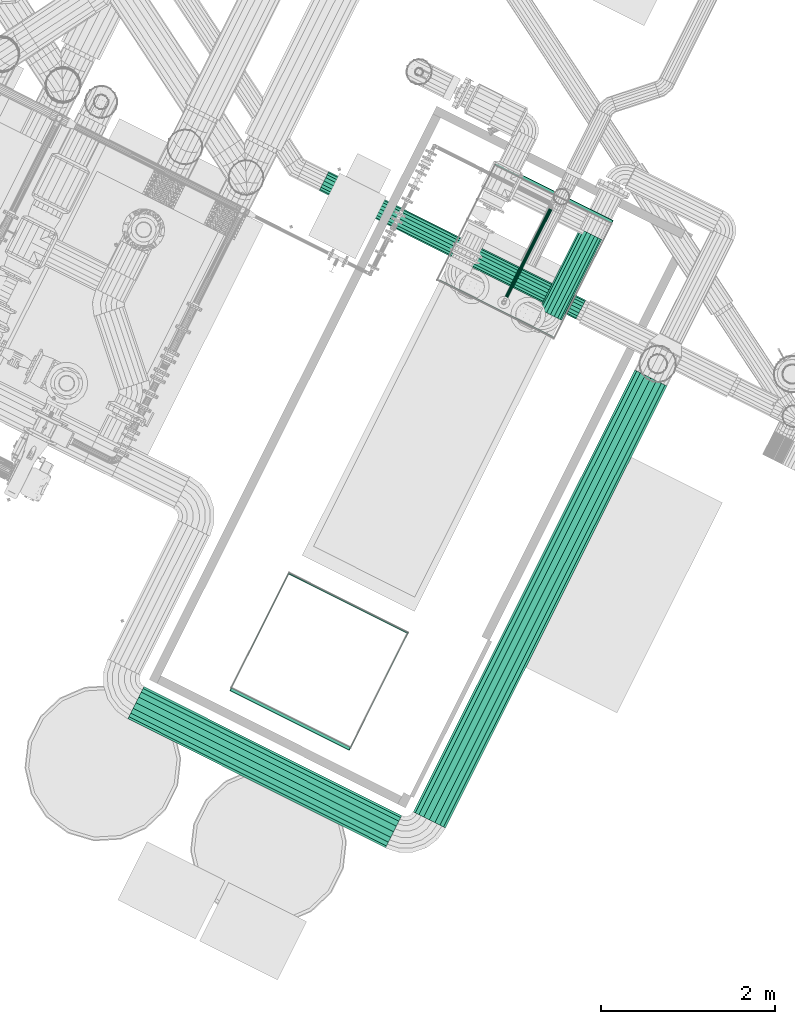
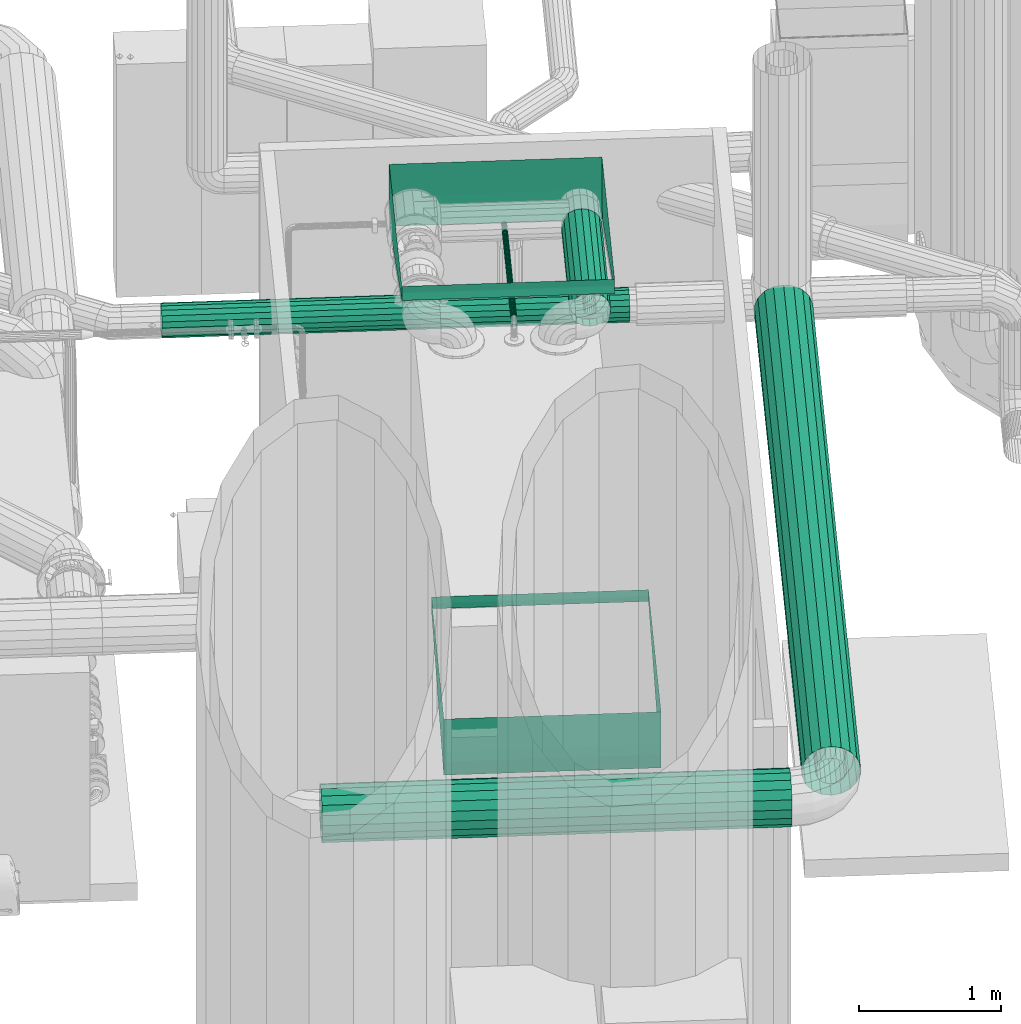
# One storey, part 7 of 206: 5 flow segments, 3 flow fittings.
"""IFC2X3 building model written with IfcOpenShell, lengths in metres."""

from ifc_helpers import new_model, si_unit, derived_unit, direction, frame, origin, place, context, subcontext, project, spatial, face_set, surface_model, source, transform, mapped, material, type_object, type_shapes, element, save


model = new_model("IFC2X3")

# Units and contexts
model_context = context("Model", 3, precision=5.2338327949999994e-05, world=origin(), true_north=direction((0.0, 1.0)))
body_context = subcontext(model_context, "Body", "Model", "MODEL_VIEW")
ifc_project = project(units=[si_unit("LENGTHUNIT", "METRE"), si_unit("AREAUNIT", "SQUARE_METRE"), si_unit("VOLUMEUNIT", "CUBIC_METRE"), si_unit("MASSUNIT", "GRAM", prefix="KILO"), si_unit("PLANEANGLEUNIT", "RADIAN"), derived_unit("THERMALTRANSMITTANCEUNIT", [(si_unit("MASSUNIT", "GRAM", prefix="KILO"), 1), (si_unit("THERMODYNAMICTEMPERATUREUNIT", "KELVIN"), -1), (si_unit("TIMEUNIT", "SECOND"), -3)])], contexts=[model_context])

# Site, building, storey
site_placement = place(None, frame((0.0, 0.0, 0.0), z_axis=(0.0, 0.0, 1.0), x_axis=(0.8939966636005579, -0.4480736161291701, 0.0)))
site = spatial("IfcSite", under=ifc_project, at=site_placement, Name="Default", CompositionType="ELEMENT")
building_placement = place(site_placement, origin())
building = spatial("IfcBuilding", under=site, at=building_placement, CompositionType="ELEMENT")
storey_placement = place(building_placement, origin())
storey = spatial("IfcBuildingStorey", under=building, at=storey_placement, Name="Erdgeschoss", CompositionType="ELEMENT", Elevation=0.0)

# Flow fittings
ifc_material_1 = material(Name="IfcSurfaceStyle #271571")
distribution_element_type_1 = type_object("IfcDistributionElementType", Name="Bogen asymmetrisch 272668:Bogen asymmetrisch 272668", material=ifc_material_1)
shared_shape_1 = source(origin(), body_context, "Body", "SurfaceModel", [
    surface_model("IfcFaceBasedSurfaceModel", [(29.800000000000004, 8.373869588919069, 2.717682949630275), (29.800000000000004, 8.373869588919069, 2.667682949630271), (31.300000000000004, 8.373869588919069, 2.667682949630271), (31.300000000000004, 8.373869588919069, 2.7176829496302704), (31.300000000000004, 8.372165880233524, 2.6547419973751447), (31.300000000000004, 8.373441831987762, 2.661156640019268), (29.800000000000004, 8.373441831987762, 2.661156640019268), (29.800000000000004, 8.372165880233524, 2.6547419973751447), (29.800000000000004, 8.359224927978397, 2.6064457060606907), (31.300000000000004, 8.3592249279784, 2.6064457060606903), (29.800000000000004, 9.837091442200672, 2.2104525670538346), (29.800000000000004, 9.850032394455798, 2.2587488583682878), (31.300000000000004, 9.850032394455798, 2.2587488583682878), (31.300000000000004, 9.837091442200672, 2.210452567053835), (31.300000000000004, 9.87386958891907, 2.439810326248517), (31.300000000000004, 9.867884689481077, 2.3484984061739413), (29.800000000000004, 9.867884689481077, 2.3484984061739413), (29.800000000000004, 9.87386958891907, 2.439810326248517), (29.800000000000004, 9.87386958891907, 2.71768294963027), (31.300000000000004, 9.87386958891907, 2.7176829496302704)], [face_set([[[0, 1, 2, 3]], [[4, 5, 6, 7]], [[5, 2, 1, 6]], [[7, 8, 9, 4]], [[10, 11, 12, 13]], [[14, 15, 16, 17]], [[15, 12, 11, 16]], [[17, 18, 19, 14]], [[19, 3, 2]], [[19, 2, 5]], [[19, 5, 4]], [[19, 4, 9]], [[19, 9, 13]], [[19, 13, 12]], [[19, 12, 15]], [[19, 15, 14]], [[1, 0, 18]], [[6, 1, 18]], [[7, 6, 18]], [[8, 7, 18]], [[10, 8, 18]], [[11, 10, 18]], [[16, 11, 18]], [[17, 16, 18]]])]),
])
type_shapes(distribution_element_type_1, [shared_shape_1])
flow_fitting_1_placement = place(storey_placement, origin())
element("IfcFlowFitting", 1, at=flow_fitting_1_placement, inside=storey, type_object=distribution_element_type_1, material=ifc_material_1, Name="Bogen asymmetrisch", ObjectType="Bogen asymmetrisch", context=body_context, shape_type="MappedRepresentation", body=[
    mapped(shared_shape_1, transform((0.0, 0.0, 0.0), scale=1.0)),
])
ifc_material_2 = material(Name="IfcSurfaceStyle #271263")
distribution_element_type_2 = type_object("IfcDistributionElementType", Name="Bogen asymmetrisch 273239:Bogen asymmetrisch 273239", material=ifc_material_2)
shared_shape_2 = source(origin(), body_context, "Body", "SurfaceModel", [
    surface_model("IfcFaceBasedSurfaceModel", [(31.315, 3.105706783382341, 2.2428476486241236), (31.315, 3.0878544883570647, 2.3325971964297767), (29.785000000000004, 3.0878544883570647, 2.3325971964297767), (29.785000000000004, 3.105706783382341, 2.2428476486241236), (31.315, 3.0818695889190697, 2.423909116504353), (29.785000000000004, 3.0818695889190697, 2.423909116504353), (29.785000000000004, 3.1186477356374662, 2.19455135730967), (31.315, 3.1186477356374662, 2.19455135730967), (29.785000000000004, 4.596514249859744, 2.5905444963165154), (29.785000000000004, 4.5835732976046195, 2.6388407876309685), (31.31500000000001, 4.5835732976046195, 2.6388407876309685), (31.315, 4.5965142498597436, 2.590544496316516), (31.31500000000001, 4.58186958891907, 2.6517817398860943), (31.31500000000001, 4.582297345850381, 2.6452554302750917), (29.785000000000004, 4.582297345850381, 2.6452554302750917), (29.785000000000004, 4.58186958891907, 2.6517817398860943), (29.785000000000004, 4.581869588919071, 2.7017817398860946), (31.31500000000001, 4.581869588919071, 2.701781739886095), (29.785000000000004, 3.0818695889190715, 2.701781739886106), (31.31500000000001, 3.0818695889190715, 2.701781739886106)], [face_set([[[0, 1, 2, 3]], [[1, 4, 5, 2]], [[3, 6, 7, 0]], [[8, 9, 10, 11]], [[12, 13, 14, 15]], [[13, 10, 9, 14]], [[15, 16, 17, 12]], [[18, 5, 4, 19]], [[4, 1, 0]], [[4, 0, 7]], [[4, 7, 11]], [[4, 11, 10]], [[4, 10, 13]], [[4, 13, 12]], [[4, 12, 17]], [[4, 17, 19]], [[3, 2, 5]], [[6, 3, 5]], [[8, 6, 5]], [[9, 8, 5]], [[14, 9, 5]], [[15, 14, 5]], [[16, 15, 5]], [[18, 16, 5]]])]),
])
type_shapes(distribution_element_type_2, [shared_shape_2])
flow_fitting_2_placement = place(storey_placement, origin())
element("IfcFlowFitting", 2, at=flow_fitting_2_placement, inside=storey, type_object=distribution_element_type_2, material=ifc_material_2, Name="Bogen asymmetrisch", ObjectType="Bogen asymmetrisch", context=body_context, shape_type="MappedRepresentation", body=[
    mapped(shared_shape_2, transform((0.0, 0.0, 0.0), scale=1.0)),
])

# Flow segments
ifc_material_3 = material(Name="IfcSurfaceStyle #251447")
distribution_element_type_3 = type_object("IfcDistributionElementType", Name="Wickelfalzrohr 283724:Wickelfalzrohr 283724", material=ifc_material_3)
shared_shape_3 = source(origin(), body_context, "Body", "SurfaceModel", [
    surface_model("IfcFaceBasedSurfaceModel", [(31.425259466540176, 8.794603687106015, 2.324999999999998), (31.425259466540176, 8.837356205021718, 2.317461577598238), (28.128931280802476, 8.837356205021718, 2.317461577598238), (28.128931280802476, 8.79460368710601, 2.3249999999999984), (31.425259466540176, 8.874952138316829, 2.2957555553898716), (28.128931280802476, 8.874952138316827, 2.2957555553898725), (31.425259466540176, 8.902856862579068, 2.2624999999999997), (28.128931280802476, 8.902856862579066, 2.262500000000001), (31.425259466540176, 8.91770465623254, 2.221706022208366), (28.128931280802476, 8.917704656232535, 2.2217060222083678), (31.425259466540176, 8.917704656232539, 2.1782939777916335), (28.128931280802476, 8.917704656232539, 2.1782939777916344), (31.425259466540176, 8.902856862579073, 2.137499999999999), (28.128931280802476, 8.902856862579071, 2.1375000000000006), (31.425259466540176, 8.874952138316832, 2.1042444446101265), (28.128931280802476, 8.874952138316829, 2.104244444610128), (31.425259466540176, 8.837356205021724, 2.0825384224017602), (28.128931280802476, 8.837356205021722, 2.082538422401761), (31.425259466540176, 8.794603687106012, 2.0749999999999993), (28.128931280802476, 8.794603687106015, 2.0749999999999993), (31.425259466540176, 8.751851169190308, 2.0825384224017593), (28.128931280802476, 8.751851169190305, 2.08253842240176), (31.425259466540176, 8.714255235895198, 2.104244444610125), (28.128931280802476, 8.714255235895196, 2.104244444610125), (31.425259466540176, 8.686350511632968, 2.137499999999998), (28.128931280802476, 8.686350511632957, 2.1374999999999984), (31.425259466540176, 8.671502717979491, 2.17829397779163), (28.128931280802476, 8.671502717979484, 2.1782939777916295), (31.425259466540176, 8.671502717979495, 2.2217060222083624), (28.128931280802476, 8.671502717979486, 2.2217060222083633), (31.425259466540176, 8.686350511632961, 2.262499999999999), (28.128931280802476, 8.686350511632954, 2.262499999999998), (31.425259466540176, 8.714255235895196, 2.29575555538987), (28.128931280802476, 8.714255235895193, 2.2957555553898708), (31.425259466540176, 8.751851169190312, 2.3174615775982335), (28.128931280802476, 8.751851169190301, 2.3174615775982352)], [face_set([[[0, 1, 2, 3]], [[1, 4, 5, 2]], [[4, 6, 7, 5]], [[6, 8, 9, 7]], [[8, 10, 11, 9]], [[10, 12, 13, 11]], [[12, 14, 15, 13]], [[14, 16, 17, 15]], [[16, 18, 19, 17]], [[18, 20, 21, 19]], [[20, 22, 23, 21]], [[22, 24, 25, 23]], [[24, 26, 27, 25]], [[26, 28, 29, 27]], [[28, 30, 31, 29]], [[30, 32, 33, 31]], [[32, 34, 35, 33]], [[34, 0, 3, 35]]])]),
])
type_shapes(distribution_element_type_3, [shared_shape_3])
flow_segment_1_placement = place(storey_placement, origin())
element("IfcFlowSegment", 3, at=flow_segment_1_placement, inside=storey, type_object=distribution_element_type_3, material=ifc_material_3, Name="Wickelfalzrohr", ObjectType="Wickelfalzrohr", context=body_context, shape_type="MappedRepresentation", body=[
    mapped(shared_shape_3, transform((0.0, 0.0, 0.0), scale=1.0)),
])
ifc_material_4 = material(Name="IfcSurfaceStyle #9317")
distribution_element_type_4 = type_object("IfcDistributionElementType", Name="Stahlrohr nach DIN 2448 331948:Stahlrohr nach DIN 2448 331948", material=ifc_material_4)
shared_shape_4 = source(origin(), body_context, "Body", "SurfaceModel", [
    surface_model("IfcFaceBasedSurfaceModel", [(31.13987201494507, 8.587570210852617, 2.269549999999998), (31.124669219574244, 8.587570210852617, 2.2722306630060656), (31.124669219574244, 9.62141948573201, 2.2722306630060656), (31.139872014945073, 9.62141948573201, 2.269549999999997), (31.111300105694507, 8.587570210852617, 2.2799493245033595), (31.111300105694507, 9.62141948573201, 2.2799493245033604), (31.101377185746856, 8.587570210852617, 2.291774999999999), (31.101377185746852, 9.62141948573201, 2.291775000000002), (31.096097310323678, 8.587570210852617, 2.306281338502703), (31.096097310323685, 9.62141948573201, 2.306281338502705), (31.096097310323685, 8.587570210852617, 2.321718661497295), (31.096097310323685, 9.62141948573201, 2.3217186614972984), (31.101377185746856, 8.587570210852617, 2.3362250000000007), (31.101377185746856, 9.62141948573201, 2.3362250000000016), (31.111300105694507, 8.587570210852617, 2.3480506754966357), (31.111300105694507, 9.62141948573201, 2.348050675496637), (31.124669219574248, 8.587570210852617, 2.3557693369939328), (31.12466921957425, 9.62141948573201, 2.3557693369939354), (31.139872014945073, 8.587570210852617, 2.358449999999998), (31.139872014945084, 9.62141948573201, 2.3584499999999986), (31.1550748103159, 8.587570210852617, 2.3557693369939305), (31.155074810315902, 9.62141948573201, 2.355769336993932), (31.16844392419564, 8.587570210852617, 2.3480506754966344), (31.168443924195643, 9.62141948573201, 2.348050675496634), (31.17836684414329, 8.587570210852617, 2.3362249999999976), (31.178366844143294, 9.62141948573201, 2.336224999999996), (31.183646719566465, 8.587570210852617, 2.321718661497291), (31.183646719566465, 9.62141948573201, 2.32171866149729), (31.183646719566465, 8.587570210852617, 2.3062813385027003), (31.183646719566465, 9.62141948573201, 2.3062813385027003), (31.17836684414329, 8.587570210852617, 2.291774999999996), (31.17836684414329, 9.62141948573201, 2.291774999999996), (31.16844392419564, 8.587570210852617, 2.2799493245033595), (31.168443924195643, 9.62141948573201, 2.279949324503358), (31.155074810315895, 8.587570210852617, 2.2722306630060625), (31.155074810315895, 9.62141948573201, 2.2722306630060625), (31.13987201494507, 8.587570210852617, 2.1695499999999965), (31.09046720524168, 8.587570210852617, 2.1782614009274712), (31.090467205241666, 9.62141948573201, 2.178261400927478), (31.13987201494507, 9.62141948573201, 2.1695500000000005), (31.04702134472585, 8.587570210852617, 2.2033448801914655), (31.047021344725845, 9.62141948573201, 2.20334488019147), (31.01477464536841, 8.587570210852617, 2.2417750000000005), (31.01477464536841, 9.62141948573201, 2.2417750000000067), (30.997616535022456, 8.587570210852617, 2.2889165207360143), (30.99761653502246, 9.62141948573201, 2.2889165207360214), (30.99761653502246, 8.587570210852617, 2.3390834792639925), (30.997616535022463, 9.62141948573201, 2.3390834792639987), (31.014774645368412, 8.587570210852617, 2.386225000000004), (31.014774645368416, 9.62141948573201, 2.3862250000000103), (31.047021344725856, 8.587570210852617, 2.4246551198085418), (31.04702134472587, 9.62141948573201, 2.4246551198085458), (31.090467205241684, 8.587570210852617, 2.449738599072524), (31.090467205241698, 9.62141948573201, 2.449738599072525), (31.139872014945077, 8.587570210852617, 2.458449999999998), (31.13987201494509, 9.62141948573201, 2.4584499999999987), (31.189276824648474, 8.587570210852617, 2.4497385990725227), (31.18927682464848, 9.62141948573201, 2.44973859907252), (31.2327226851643, 8.587570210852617, 2.424655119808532), (31.23272268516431, 9.62141948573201, 2.4246551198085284), (31.264969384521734, 8.587570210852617, 2.3862249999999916), (31.264969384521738, 9.62141948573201, 2.3862249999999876), (31.282127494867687, 8.587570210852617, 2.339083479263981), (31.282127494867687, 9.62141948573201, 2.3390834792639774), (31.282127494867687, 8.587570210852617, 2.2889165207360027), (31.282127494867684, 9.62141948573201, 2.2889165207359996), (31.26496938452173, 8.587570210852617, 2.2417749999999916), (31.26496938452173, 9.62141948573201, 2.24177499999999), (31.23272268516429, 8.587570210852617, 2.2033448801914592), (31.23272268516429, 9.62141948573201, 2.2033448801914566), (31.189276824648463, 8.587570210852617, 2.178261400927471), (31.189276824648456, 9.62141948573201, 2.178261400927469)], [face_set([[[0, 1, 2, 3]], [[1, 4, 5, 2]], [[4, 6, 7, 5]], [[6, 8, 9, 7]], [[8, 10, 11, 9]], [[10, 12, 13, 11]], [[12, 14, 15, 13]], [[14, 16, 17, 15]], [[16, 18, 19, 17]], [[18, 20, 21, 19]], [[20, 22, 23, 21]], [[22, 24, 25, 23]], [[24, 26, 27, 25]], [[26, 28, 29, 27]], [[28, 30, 31, 29]], [[30, 32, 33, 31]], [[32, 34, 35, 33]], [[34, 0, 3, 35]], [[36, 37, 38, 39]], [[37, 40, 41, 38]], [[40, 42, 43, 41]], [[42, 44, 45, 43]], [[44, 46, 47, 45]], [[46, 48, 49, 47]], [[48, 50, 51, 49]], [[50, 52, 53, 51]], [[52, 54, 55, 53]], [[54, 56, 57, 55]], [[56, 58, 59, 57]], [[58, 60, 61, 59]], [[60, 62, 63, 61]], [[62, 64, 65, 63]], [[64, 66, 67, 65]], [[66, 68, 69, 67]], [[68, 70, 71, 69]], [[70, 36, 39, 71]]])]),
])
type_shapes(distribution_element_type_4, [shared_shape_4])
flow_segment_2_placement = place(storey_placement, origin())
element("IfcFlowSegment", 4, at=flow_segment_2_placement, inside=storey, type_object=distribution_element_type_4, material=ifc_material_4, Name="Stahlrohr nach DIN 2448", ObjectType="Stahlrohr nach DIN 2448", context=body_context, shape_type="MappedRepresentation", body=[
    mapped(shared_shape_4, transform((0.0, 0.0, 0.0), scale=1.0)),
])
distribution_element_type_5 = type_object("IfcDistributionElementType", Name="Stahlrohr nach DIN 2448 342650:Stahlrohr nach DIN 2448 342650", material=ifc_material_4)
shared_shape_5 = source(origin(), body_context, "Body", "SurfaceModel", [
    surface_model("IfcFaceBasedSurfaceModel", [(28.881548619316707, 2.4768683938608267, 2.463549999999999), (28.881548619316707, 2.4394000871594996, 2.4569433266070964), (32.19039487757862, 2.439400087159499, 2.4569433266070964), (32.19039487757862, 2.4768683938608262, 2.463549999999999), (28.881548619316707, 2.4064510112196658, 2.437920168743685), (32.19039487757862, 2.406451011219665, 2.4379201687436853), (28.881548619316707, 2.3819953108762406, 2.408775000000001), (32.19039487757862, 2.3819953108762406, 2.408775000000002), (28.881548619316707, 2.3689827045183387, 2.373023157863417), (32.19039487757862, 2.3689827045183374, 2.373023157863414), (28.881548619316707, 2.3689827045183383, 2.334976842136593), (32.19039487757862, 2.3689827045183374, 2.3349768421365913), (28.881548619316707, 2.3819953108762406, 2.299225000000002), (32.19039487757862, 2.3819953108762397, 2.299225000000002), (28.881548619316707, 2.406451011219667, 2.2700798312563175), (32.19039487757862, 2.4064510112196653, 2.2700798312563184), (28.881548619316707, 2.4394000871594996, 2.251056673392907), (32.19039487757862, 2.4394000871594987, 2.251056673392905), (28.881548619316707, 2.4768683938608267, 2.244449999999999), (32.19039487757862, 2.476868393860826, 2.244449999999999), (28.881548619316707, 2.5143367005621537, 2.2510566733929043), (32.19039487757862, 2.5143367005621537, 2.2510566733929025), (28.881548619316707, 2.547285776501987, 2.270079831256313), (32.19039487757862, 2.5472857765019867, 2.270079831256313), (28.881548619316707, 2.5717414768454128, 2.2992249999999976), (32.19039487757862, 2.5717414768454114, 2.2992249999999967), (28.881548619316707, 2.5847540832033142, 2.3349768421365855), (32.19039487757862, 2.5847540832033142, 2.334976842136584), (28.881548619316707, 2.5847540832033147, 2.373023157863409), (32.19039487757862, 2.5847540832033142, 2.3730231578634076), (28.881548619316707, 2.5717414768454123, 2.408774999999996), (32.19039487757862, 2.5717414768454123, 2.408774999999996), (28.881548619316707, 2.547285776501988, 2.437920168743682), (32.19039487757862, 2.5472857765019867, 2.4379201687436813), (28.881548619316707, 2.5143367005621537, 2.4569433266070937), (32.19039487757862, 2.5143367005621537, 2.4569433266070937), (28.881548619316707, 2.476868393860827, 2.563549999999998), (28.881548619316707, 2.405198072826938, 2.5509125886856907), (32.19039487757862, 2.4051980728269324, 2.550912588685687), (32.19039487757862, 2.476868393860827, 2.563549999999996), (28.881548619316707, 2.342172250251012, 2.514524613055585), (32.19039487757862, 2.342172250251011, 2.5145246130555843), (28.881548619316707, 2.2953927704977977, 2.4587750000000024), (32.19039487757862, 2.2953927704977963, 2.4587750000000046), (28.881548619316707, 2.270501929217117, 2.390387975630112), (32.19039487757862, 2.2705019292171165, 2.390387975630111), (28.881548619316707, 2.2705019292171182, 2.317612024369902), (32.19039487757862, 2.2705019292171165, 2.3176120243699), (28.881548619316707, 2.295392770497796, 2.2492250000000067), (32.19039487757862, 2.2953927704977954, 2.2492250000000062), (28.881548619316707, 2.342172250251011, 2.193475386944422), (32.19039487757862, 2.3421722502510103, 2.1934753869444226), (28.881548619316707, 2.405198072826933, 2.157087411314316), (32.19039487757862, 2.4051980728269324, 2.1570874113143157), (28.881548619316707, 2.4768683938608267, 2.144450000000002), (32.19039487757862, 2.4768683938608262, 2.1444500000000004), (28.881548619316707, 2.5485387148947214, 2.15708741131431), (32.19039487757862, 2.5485387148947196, 2.15708741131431), (28.881548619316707, 2.611564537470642, 2.193475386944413), (32.19039487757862, 2.611564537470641, 2.1934753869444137), (28.881548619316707, 2.6583440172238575, 2.2492249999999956), (32.19039487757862, 2.658344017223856, 2.2492249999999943), (28.881548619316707, 2.6832348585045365, 2.3176120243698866), (32.19039487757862, 2.683234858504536, 2.3176120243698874), (28.881548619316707, 2.6832348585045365, 2.390387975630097), (32.19039487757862, 2.6832348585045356, 2.390387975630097), (28.881548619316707, 2.6583440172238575, 2.458774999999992), (32.19039487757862, 2.658344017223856, 2.4587749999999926), (28.881548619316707, 2.6115645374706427, 2.514524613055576), (32.19039487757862, 2.611564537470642, 2.5145246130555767), (28.881548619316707, 2.548538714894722, 2.550912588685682), (32.19039487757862, 2.5485387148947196, 2.550912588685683)], [face_set([[[0, 1, 2, 3]], [[1, 4, 5, 2]], [[4, 6, 7, 5]], [[6, 8, 9, 7]], [[8, 10, 11, 9]], [[10, 12, 13, 11]], [[12, 14, 15, 13]], [[14, 16, 17, 15]], [[16, 18, 19, 17]], [[18, 20, 21, 19]], [[20, 22, 23, 21]], [[22, 24, 25, 23]], [[24, 26, 27, 25]], [[26, 28, 29, 27]], [[28, 30, 31, 29]], [[30, 32, 33, 31]], [[32, 34, 35, 33]], [[34, 0, 3, 35]], [[36, 37, 38, 39]], [[37, 40, 41, 38]], [[40, 42, 43, 41]], [[42, 44, 45, 43]], [[44, 46, 47, 45]], [[46, 48, 49, 47]], [[48, 50, 51, 49]], [[50, 52, 53, 51]], [[52, 54, 55, 53]], [[54, 56, 57, 55]], [[56, 58, 59, 57]], [[58, 60, 61, 59]], [[60, 62, 63, 61]], [[62, 64, 65, 63]], [[64, 66, 67, 65]], [[66, 68, 69, 67]], [[68, 70, 71, 69]], [[70, 36, 39, 71]]])]),
])
type_shapes(distribution_element_type_5, [shared_shape_5])
flow_segment_3_placement = place(storey_placement, origin())
element("IfcFlowSegment", 5, at=flow_segment_3_placement, inside=storey, type_object=distribution_element_type_5, material=ifc_material_4, Name="Stahlrohr nach DIN 2448", ObjectType="Stahlrohr nach DIN 2448", context=body_context, shape_type="MappedRepresentation", body=[
    mapped(shared_shape_5, transform((0.0, 0.0, 0.0), scale=1.0)),
])
distribution_element_type_6 = type_object("IfcDistributionElementType", Name="Stahlrohr nach DIN 2448 345345:Stahlrohr nach DIN 2448 345345", material=ifc_material_4)
shared_shape_6 = source(origin(), body_context, "Body", "SurfaceModel", [
    surface_model("IfcFaceBasedSurfaceModel", [(32.49539487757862, 2.7818683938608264, 2.4635500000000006), (32.53286318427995, 2.7818683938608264, 2.4569433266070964), (32.53286318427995, 8.455986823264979, 2.4569433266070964), (32.49539487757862, 8.455986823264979, 2.4635500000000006), (32.56581226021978, 2.7818683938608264, 2.437920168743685), (32.56581226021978, 8.455986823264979, 2.4379201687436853), (32.5902679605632, 2.7818683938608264, 2.408775), (32.590267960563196, 8.455986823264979, 2.408775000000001), (32.6032805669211, 2.7818683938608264, 2.373023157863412), (32.6032805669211, 8.455986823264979, 2.373023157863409), (32.60328056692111, 2.7818683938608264, 2.334976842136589), (32.60328056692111, 8.455986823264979, 2.334976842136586), (32.5902679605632, 2.7818683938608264, 2.2992249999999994), (32.5902679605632, 8.455986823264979, 2.2992249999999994), (32.56581226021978, 2.7818683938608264, 2.270079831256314), (32.56581226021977, 8.455986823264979, 2.2700798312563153), (32.53286318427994, 2.7818683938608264, 2.2510566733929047), (32.53286318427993, 8.455986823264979, 2.251056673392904), (32.49539487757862, 2.7818683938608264, 2.2444499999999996), (32.49539487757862, 8.455986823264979, 2.2444500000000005), (32.45792657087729, 2.7818683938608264, 2.251056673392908), (32.45792657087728, 8.455986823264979, 2.251056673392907), (32.42497749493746, 2.7818683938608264, 2.2700798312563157), (32.424977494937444, 8.455986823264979, 2.2700798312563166), (32.40052179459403, 2.7818683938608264, 2.2992250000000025), (32.40052179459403, 8.455986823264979, 2.2992250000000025), (32.38750918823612, 2.7818683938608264, 2.334976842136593), (32.38750918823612, 8.455986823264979, 2.3349768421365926), (32.38750918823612, 2.7818683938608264, 2.373023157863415), (32.38750918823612, 8.455986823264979, 2.373023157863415), (32.40052179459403, 2.7818683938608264, 2.4087750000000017), (32.40052179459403, 8.455986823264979, 2.4087750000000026), (32.42497749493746, 2.7818683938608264, 2.437920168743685), (32.424977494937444, 8.455986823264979, 2.437920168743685), (32.4579265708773, 2.7818683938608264, 2.456943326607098), (32.45792657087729, 8.455986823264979, 2.456943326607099), (32.49539487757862, 2.7818683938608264, 2.5635500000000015), (32.567065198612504, 2.7818683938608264, 2.5509125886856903), (32.567065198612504, 8.455986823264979, 2.5509125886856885), (32.49539487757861, 8.455986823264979, 2.5635500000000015), (32.630091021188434, 2.7818683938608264, 2.514524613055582), (32.63009102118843, 8.455986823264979, 2.5145246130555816), (32.67687050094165, 2.7818683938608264, 2.458774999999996), (32.67687050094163, 8.455986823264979, 2.4587749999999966), (32.701761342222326, 2.7818683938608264, 2.3903879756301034), (32.70176134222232, 8.455986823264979, 2.390387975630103), (32.701761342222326, 2.7818683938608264, 2.3176120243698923), (32.701761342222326, 8.455986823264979, 2.3176120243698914), (32.67687050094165, 2.7818683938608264, 2.2492249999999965), (32.67687050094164, 8.455986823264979, 2.2492249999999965), (32.63009102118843, 2.7818683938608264, 2.1934753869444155), (32.63009102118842, 8.455986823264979, 2.193475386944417), (32.56706519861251, 2.7818683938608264, 2.157087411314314), (32.567065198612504, 8.455986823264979, 2.1570874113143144), (32.49539487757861, 2.7818683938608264, 2.1444500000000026), (32.49539487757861, 8.455986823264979, 2.1444500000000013), (32.42372455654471, 2.7818683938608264, 2.1570874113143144), (32.42372455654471, 8.455986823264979, 2.157087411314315), (32.3606987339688, 2.7818683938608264, 2.1934753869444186), (32.360698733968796, 8.455986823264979, 2.1934753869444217), (32.31391925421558, 2.7818683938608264, 2.249225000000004), (32.31391925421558, 8.455986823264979, 2.2492250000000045), (32.28902841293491, 2.7818683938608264, 2.3176120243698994), (32.28902841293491, 8.455986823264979, 2.3176120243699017), (32.289028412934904, 2.7818683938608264, 2.390387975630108), (32.289028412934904, 8.455986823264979, 2.390387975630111), (32.31391925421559, 2.7818683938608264, 2.458775), (32.313919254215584, 8.455986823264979, 2.4587750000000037), (32.3606987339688, 2.7818683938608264, 2.5145246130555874), (32.360698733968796, 8.455986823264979, 2.514524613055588), (32.42372455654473, 2.7818683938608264, 2.5509125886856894), (32.42372455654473, 8.455986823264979, 2.5509125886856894)], [face_set([[[0, 1, 2, 3]], [[1, 4, 5, 2]], [[4, 6, 7, 5]], [[6, 8, 9, 7]], [[8, 10, 11, 9]], [[10, 12, 13, 11]], [[12, 14, 15, 13]], [[14, 16, 17, 15]], [[16, 18, 19, 17]], [[18, 20, 21, 19]], [[20, 22, 23, 21]], [[22, 24, 25, 23]], [[24, 26, 27, 25]], [[26, 28, 29, 27]], [[28, 30, 31, 29]], [[30, 32, 33, 31]], [[32, 34, 35, 33]], [[34, 0, 3, 35]], [[36, 37, 38, 39]], [[37, 40, 41, 38]], [[40, 42, 43, 41]], [[42, 44, 45, 43]], [[44, 46, 47, 45]], [[46, 48, 49, 47]], [[48, 50, 51, 49]], [[50, 52, 53, 51]], [[52, 54, 55, 53]], [[54, 56, 57, 55]], [[56, 58, 59, 57]], [[58, 60, 61, 59]], [[60, 62, 63, 61]], [[62, 64, 65, 63]], [[64, 66, 67, 65]], [[66, 68, 69, 67]], [[68, 70, 71, 69]], [[70, 36, 39, 71]]])]),
])
type_shapes(distribution_element_type_6, [shared_shape_6])
flow_segment_4_placement = place(storey_placement, origin())
element("IfcFlowSegment", 6, at=flow_segment_4_placement, inside=storey, type_object=distribution_element_type_6, material=ifc_material_4, Name="Stahlrohr nach DIN 2448", ObjectType="Stahlrohr nach DIN 2448", context=body_context, shape_type="MappedRepresentation", body=[
    mapped(shared_shape_6, transform((0.0, 0.0, 0.0), scale=1.0)),
])
ifc_material_5 = material(Name="IfcSurfaceStyle #352577")
distribution_element_type_7 = type_object("IfcDistributionElementType", Name="Stahlrohr nach DIN 2448 612334:Stahlrohr nach DIN 2448 612334", material=ifc_material_5)
shared_shape_7 = source(origin(), body_context, "Body", "SurfaceModel", [
    surface_model("IfcFaceBasedSurfaceModel", [(30.598000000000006, 9.675162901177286, 2.2928), (30.605250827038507, 9.675162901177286, 2.294078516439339), (30.605250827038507, 8.521570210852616, 2.294078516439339), (30.59800000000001, 8.521570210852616, 2.292800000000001), (30.611627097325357, 9.675162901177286, 2.2977598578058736), (30.611627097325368, 8.521570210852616, 2.2977598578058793), (30.61635973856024, 9.675162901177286, 2.3033999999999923), (30.616359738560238, 8.521570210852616, 2.303399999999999), (30.61887792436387, 9.675162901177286, 2.3103186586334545), (30.61887792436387, 8.521570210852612, 2.310318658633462), (30.61887792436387, 9.675162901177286, 2.3176813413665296), (30.61887792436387, 8.521570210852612, 2.3176813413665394), (30.616359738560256, 9.675162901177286, 2.3245999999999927), (30.61635973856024, 8.521570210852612, 2.3246000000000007), (30.611627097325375, 9.675162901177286, 2.3302401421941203), (30.61162709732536, 8.521570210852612, 2.3302401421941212), (30.605250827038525, 9.675162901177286, 2.3339214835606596), (30.605250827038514, 8.521570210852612, 2.3339214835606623), (30.598000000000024, 9.675162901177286, 2.3352000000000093), (30.59800000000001, 8.521570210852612, 2.335200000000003), (30.59074917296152, 9.675162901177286, 2.333921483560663), (30.590749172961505, 8.521570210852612, 2.3339214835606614), (30.584372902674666, 9.675162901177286, 2.3302401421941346), (30.584372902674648, 8.521570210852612, 2.330240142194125), (30.579640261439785, 9.675162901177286, 2.3246000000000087), (30.57964026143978, 8.521570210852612, 2.324600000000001), (30.57712207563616, 9.675162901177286, 2.317681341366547), (30.577122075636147, 8.521570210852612, 2.3176813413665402), (30.577122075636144, 9.675162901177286, 2.310318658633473), (30.577122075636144, 8.521570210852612, 2.3103186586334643), (30.579640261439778, 9.675162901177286, 2.303400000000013), (30.57964026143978, 8.521570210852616, 2.303400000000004), (30.584372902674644, 9.675162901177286, 2.2977598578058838), (30.584372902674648, 8.521570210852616, 2.2977598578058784), (30.5907491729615, 9.675162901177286, 2.2940785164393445), (30.5907491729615, 8.521570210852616, 2.294078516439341)], [face_set([[[0, 1, 2, 3]], [[1, 4, 5, 2]], [[4, 6, 7, 5]], [[6, 8, 9, 7]], [[8, 10, 11, 9]], [[10, 12, 13, 11]], [[12, 14, 15, 13]], [[14, 16, 17, 15]], [[16, 18, 19, 17]], [[18, 20, 21, 19]], [[20, 22, 23, 21]], [[22, 24, 25, 23]], [[24, 26, 27, 25]], [[26, 28, 29, 27]], [[28, 30, 31, 29]], [[30, 32, 33, 31]], [[32, 34, 35, 33]], [[34, 0, 3, 35]]])]),
])
type_shapes(distribution_element_type_7, [shared_shape_7])
flow_segment_5_placement = place(storey_placement, origin())
element("IfcFlowSegment", 7, at=flow_segment_5_placement, inside=storey, type_object=distribution_element_type_7, material=ifc_material_5, Name="Stahlrohr nach DIN 2448", ObjectType="Stahlrohr nach DIN 2448", context=body_context, shape_type="MappedRepresentation", body=[
    mapped(shared_shape_7, transform((0.0, 0.0, 0.0), scale=1.0)),
])

# Flow fitting
distribution_element_type_8 = type_object("IfcDistributionElementType", Name="Bogen asymmetrisch 852484:Bogen asymmetrisch 852484", material=ifc_material_2)
shared_shape_8 = source(origin(), body_context, "Body", "SurfaceModel", [
    surface_model("IfcFaceBasedSurfaceModel", [(31.315, 3.105706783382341, 2.242847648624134), (31.315, 3.0878544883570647, 2.332597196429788), (29.785000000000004, 3.0878544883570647, 2.332597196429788), (29.785000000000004, 3.105706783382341, 2.242847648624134), (31.315, 3.0818695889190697, 2.423909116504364), (29.785000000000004, 3.0818695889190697, 2.423909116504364), (29.785000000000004, 3.1186477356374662, 2.1945513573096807), (31.315, 3.1186477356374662, 2.1945513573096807), (29.785000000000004, 4.596514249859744, 2.590544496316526), (29.785000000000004, 4.5835732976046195, 2.63884078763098), (31.31500000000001, 4.5835732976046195, 2.63884078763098), (31.315, 4.5965142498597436, 2.5905444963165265), (31.31500000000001, 4.58186958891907, 2.651781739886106), (31.31500000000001, 4.582297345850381, 2.6452554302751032), (29.785000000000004, 4.582297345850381, 2.6452554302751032), (29.785000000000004, 4.58186958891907, 2.651781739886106), (29.785000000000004, 4.581869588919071, 2.7017817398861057), (31.31500000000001, 4.581869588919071, 2.7017817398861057), (29.785000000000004, 3.081869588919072, 2.7017817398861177), (31.31500000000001, 3.081869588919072, 2.7017817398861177)], [face_set([[[0, 1, 2, 3]], [[1, 4, 5, 2]], [[3, 6, 7, 0]], [[8, 9, 10, 11]], [[12, 13, 14, 15]], [[13, 10, 9, 14]], [[15, 16, 17, 12]], [[18, 5, 4, 19]], [[4, 1, 0]], [[4, 0, 7]], [[4, 7, 11]], [[4, 11, 10]], [[4, 10, 13]], [[4, 13, 12]], [[4, 12, 17]], [[4, 17, 19]], [[3, 2, 5]], [[6, 3, 5]], [[8, 6, 5]], [[9, 8, 5]], [[14, 9, 5]], [[15, 14, 5]], [[16, 15, 5]], [[18, 16, 5]]])]),
])
type_shapes(distribution_element_type_8, [shared_shape_8])
flow_fitting_3_placement = place(storey_placement, origin())
element("IfcFlowFitting", 8, at=flow_fitting_3_placement, inside=storey, type_object=distribution_element_type_8, material=ifc_material_2, Name="Bogen asymmetrisch", ObjectType="Bogen asymmetrisch", context=body_context, shape_type="MappedRepresentation", body=[
    mapped(shared_shape_8, transform((0.0, 0.0, 0.0), scale=1.0)),
])

save(model, "model.ifc")
